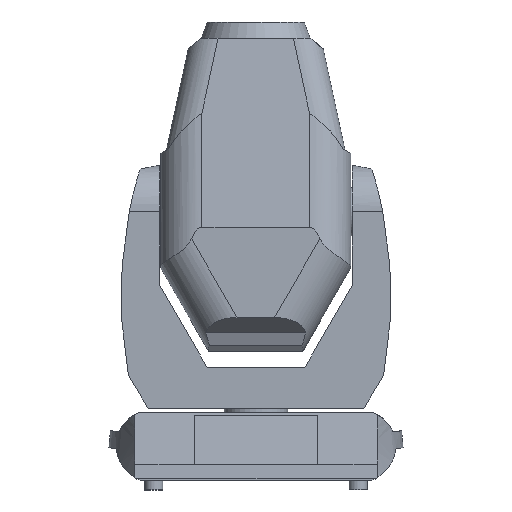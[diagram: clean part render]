
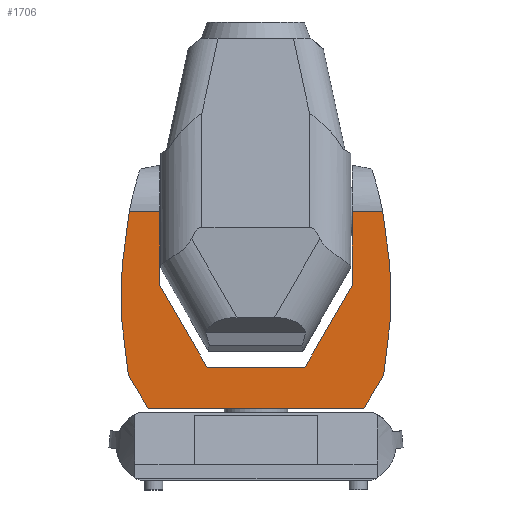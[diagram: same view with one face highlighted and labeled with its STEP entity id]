
A CAD part, left-side view. The second image highlights one B-rep face of the part: STEP entity #1706.
In plain terms, the highlighted planar face has unit normal (-1, 0, 0).
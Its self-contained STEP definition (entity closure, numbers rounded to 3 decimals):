
#41=PLANE('',#1858);
#192=LINE('',#2605,#316);
#194=LINE('',#2656,#318);
#205=LINE('',#2699,#329);
#207=LINE('',#2703,#331);
#208=LINE('',#2706,#332);
#209=LINE('',#2708,#333);
#210=LINE('',#2710,#334);
#211=LINE('',#2712,#335);
#212=LINE('',#2714,#336);
#213=LINE('',#2717,#337);
#316=VECTOR('',#2062,1000.);
#318=VECTOR('',#2070,1000.);
#329=VECTOR('',#2093,1000.);
#331=VECTOR('',#2097,1000.);
#332=VECTOR('',#2100,1000.);
#333=VECTOR('',#2101,1000.);
#334=VECTOR('',#2102,1000.);
#335=VECTOR('',#2103,1000.);
#336=VECTOR('',#2104,1000.);
#337=VECTOR('',#2107,1000.);
#469=ORIENTED_EDGE('',*,*,#958,.F.);
#470=ORIENTED_EDGE('',*,*,#959,.F.);
#471=ORIENTED_EDGE('',*,*,#933,.T.);
#472=ORIENTED_EDGE('',*,*,#960,.F.);
#473=ORIENTED_EDGE('',*,*,#961,.F.);
#474=ORIENTED_EDGE('',*,*,#962,.F.);
#475=ORIENTED_EDGE('',*,*,#963,.F.);
#476=ORIENTED_EDGE('',*,*,#964,.F.);
#477=ORIENTED_EDGE('',*,*,#940,.T.);
#478=ORIENTED_EDGE('',*,*,#965,.F.);
#479=ORIENTED_EDGE('',*,*,#966,.F.);
#480=ORIENTED_EDGE('',*,*,#956,.F.);
#933=EDGE_CURVE('',#1180,#1179,#192,.T.);
#940=EDGE_CURVE('',#1187,#1186,#194,.T.);
#956=EDGE_CURVE('',#1199,#1200,#205,.T.);
#958=EDGE_CURVE('',#1201,#1199,#207,.T.);
#959=EDGE_CURVE('',#1180,#1201,#1357,.F.);
#960=EDGE_CURVE('',#1202,#1179,#208,.T.);
#961=EDGE_CURVE('',#1203,#1202,#209,.T.);
#962=EDGE_CURVE('',#1204,#1203,#210,.T.);
#963=EDGE_CURVE('',#1205,#1204,#211,.T.);
#964=EDGE_CURVE('',#1187,#1205,#212,.T.);
#965=EDGE_CURVE('',#1206,#1186,#1358,.F.);
#966=EDGE_CURVE('',#1200,#1206,#213,.T.);
#1179=VERTEX_POINT('',#2604);
#1180=VERTEX_POINT('',#2606);
#1186=VERTEX_POINT('',#2655);
#1187=VERTEX_POINT('',#2657);
#1199=VERTEX_POINT('',#2698);
#1200=VERTEX_POINT('',#2700);
#1201=VERTEX_POINT('',#2704);
#1202=VERTEX_POINT('',#2707);
#1203=VERTEX_POINT('',#2709);
#1204=VERTEX_POINT('',#2711);
#1205=VERTEX_POINT('',#2713);
#1206=VERTEX_POINT('',#2716);
#1357=CIRCLE('',#1859,622.243);
#1358=CIRCLE('',#1860,622.243);
#1397=EDGE_LOOP('',(#469,#470,#471,#472,#473,#474,#475,#476,#477,#478,#479,
#480));
#1535=FACE_BOUND('',#1397,.T.);
#1706=ADVANCED_FACE('',(#1535),#41,.T.);
#1858=AXIS2_PLACEMENT_3D('',#2702,#2095,#2096);
#1859=AXIS2_PLACEMENT_3D('',#2705,#2098,#2099);
#1860=AXIS2_PLACEMENT_3D('',#2715,#2105,#2106);
#2062=DIRECTION('',(0.,1.,0.));
#2070=DIRECTION('',(0.,1.,0.));
#2093=DIRECTION('',(0.,1.,0.));
#2095=DIRECTION('',(-1.,0.,0.));
#2096=DIRECTION('',(0.,0.,1.));
#2097=DIRECTION('',(0.,0.512,-0.859));
#2098=DIRECTION('',(-1.,0.,0.));
#2099=DIRECTION('',(0.,0.,1.));
#2100=DIRECTION('',(0.,0.,1.));
#2101=DIRECTION('',(0.,-0.5,0.866));
#2102=DIRECTION('',(0.,-1.,0.));
#2103=DIRECTION('',(0.,-0.5,-0.866));
#2104=DIRECTION('',(0.,0.,-1.));
#2105=DIRECTION('',(-1.,0.,0.));
#2106=DIRECTION('',(0.,0.,1.));
#2107=DIRECTION('',(0.,0.512,0.859));
#2604=CARTESIAN_POINT('',(-66.5,-139.4,385.8));
#2605=CARTESIAN_POINT('',(-66.5,-215.,385.8));
#2606=CARTESIAN_POINT('',(-66.5,-183.597,385.8));
#2655=CARTESIAN_POINT('',(-66.5,183.597,385.8));
#2656=CARTESIAN_POINT('',(-66.5,-215.,385.8));
#2657=CARTESIAN_POINT('',(-66.5,139.4,385.8));
#2698=CARTESIAN_POINT('',(-66.5,-156.272,101.2));
#2699=CARTESIAN_POINT('',(-66.5,-215.,101.2));
#2700=CARTESIAN_POINT('',(-66.5,156.272,101.2));
#2702=CARTESIAN_POINT('',(-66.5,-215.,385.8));
#2703=CARTESIAN_POINT('',(-66.5,-296.859,336.993));
#2704=CARTESIAN_POINT('',(-66.5,-184.756,148.974));
#2705=CARTESIAN_POINT('',(-66.5,426.688,264.398));
#2706=CARTESIAN_POINT('',(-66.5,-139.4,385.8));
#2707=CARTESIAN_POINT('',(-66.5,-139.4,279.493));
#2708=CARTESIAN_POINT('',(-66.5,-204.332,391.959));
#2709=CARTESIAN_POINT('',(-66.5,-70.873,160.8));
#2710=CARTESIAN_POINT('',(-66.5,-215.,160.8));
#2711=CARTESIAN_POINT('',(-66.5,70.873,160.8));
#2712=CARTESIAN_POINT('',(-66.5,96.832,205.764));
#2713=CARTESIAN_POINT('',(-66.5,139.4,279.493));
#2714=CARTESIAN_POINT('',(-66.5,139.4,385.8));
#2715=CARTESIAN_POINT('',(-66.5,-426.688,264.398));
#2716=CARTESIAN_POINT('',(-66.5,184.756,148.974));
#2717=CARTESIAN_POINT('',(-66.5,184.088,147.852));
